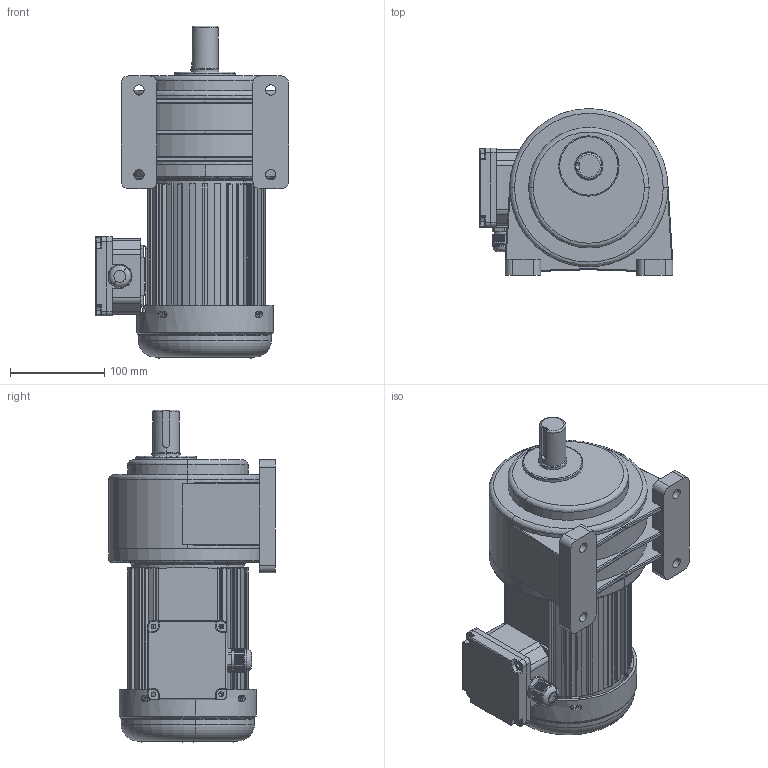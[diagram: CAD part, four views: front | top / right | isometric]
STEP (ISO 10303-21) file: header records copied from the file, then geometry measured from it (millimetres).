
FILE_DESCRIPTION (( 'STEP AP203' ), '1' );
FILE_NAME ('400W配3#卧式.STEP', '2019-06-14T07:44:25', ( '微软中国' ), ( '微软用户' ), 'SwSTEP 2.0', 'SolidWorks 2012', '' );
FILE_SCHEMA (( 'CONFIG_CONTROL_DESIGN' ));
Length unit declared in the file: millimetre
Products named in the file (10): 400W饜3#拏宒; 3#拏宒熬厒ん; 3xg400w; 400W瑞欶; 釱菜; 綴傷裔 2_2; 坶踡ん 蚾饜; 蜊輛綴諉盄碟裔; 呿蹋諉盄碟; 儂褲 2_2
Assembly tree (9 placements, depth 2):
  400W饜3#拏宒
    儂褲 2_2
    呿蹋諉盄碟
    蜊輛綴諉盄碟裔
    坶踡ん 蚾饜
    綴傷裔 2_2
    釱菜
    400W瑞欶
    3xg400w
    3#拏宒熬厒ん
Bounding box: 205.35 x 177 x 352.63 mm (x, y, z)
Volume: 2992850.4 mm3; surface area: 585757.1 mm2
Topology: 8 solids, 10 shells, 2490 faces, 6461 edges, 4065 vertices
Faces by surface type: cylinder 950, plane 711, bspline 472, torus 207, cone 142, sphere 8
Entity records: 103634 total; most frequent: CARTESIAN_POINT 43874, ORIENTED_EDGE 12866, DIRECTION 11613, EDGE_CURVE 6435, AXIS2_PLACEMENT_3D 4420, VERTEX_POINT 4065, EDGE_LOOP 2884, LINE 2773
